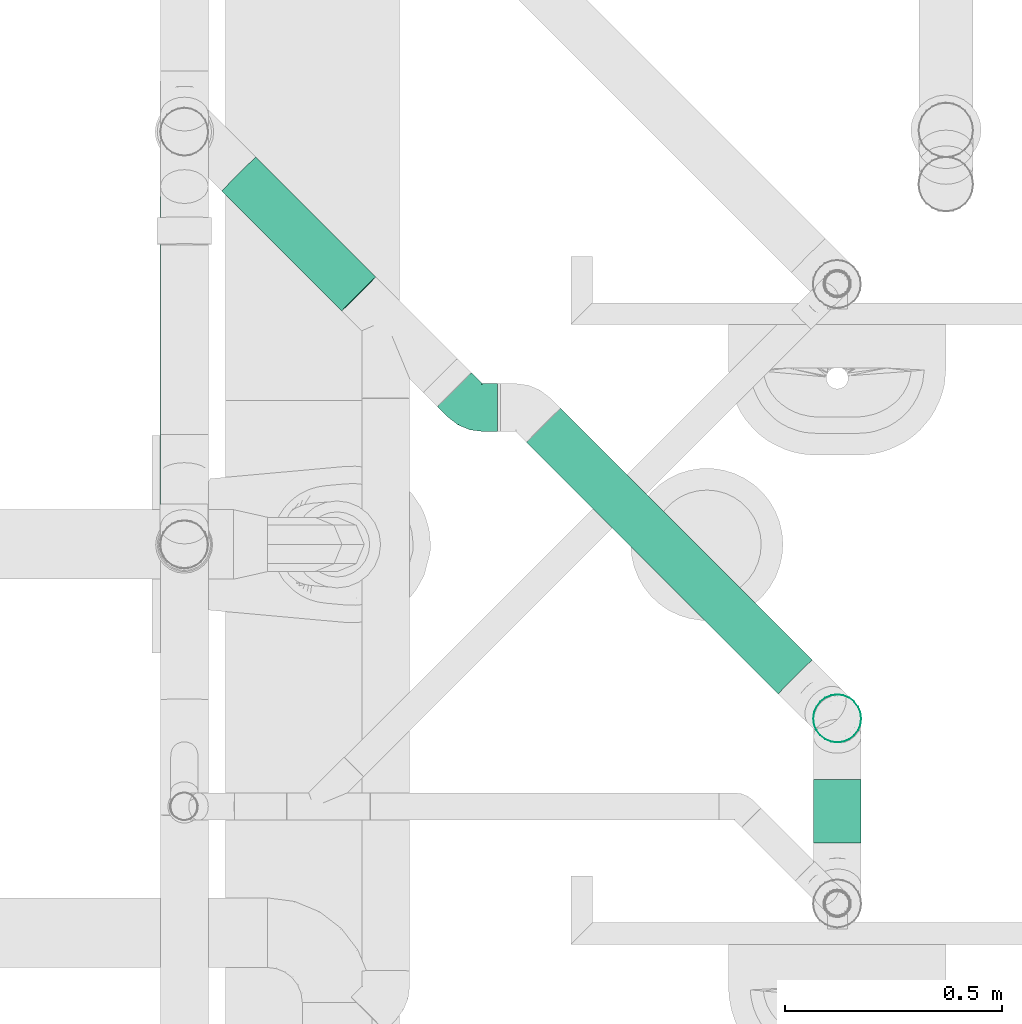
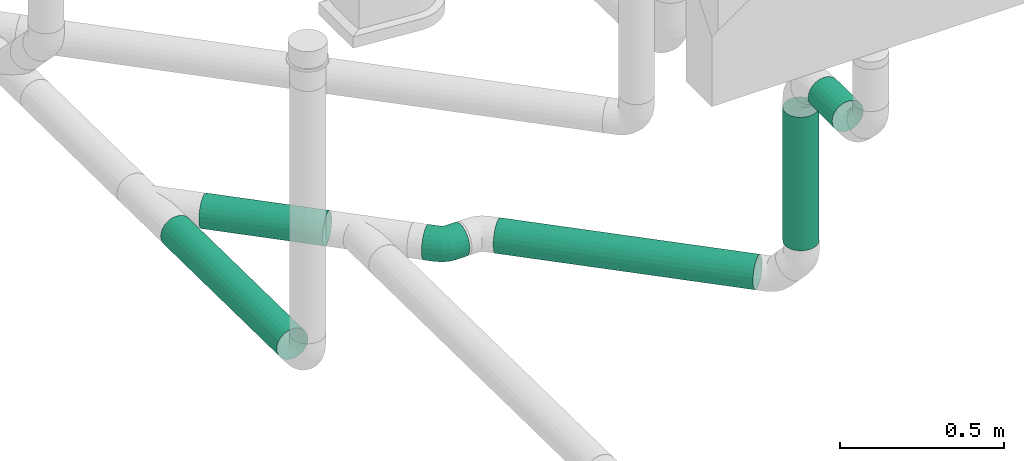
# One storey, part 301 of 374: 5 flow segments, 1 flow fitting.
"""IFC2X3 building model written with IfcOpenShell, lengths in metres."""

import ifcopenshell
import ifcopenshell.guid

model = None  # the IFC model being written
_history = None  # IfcOwnerHistory: only IFC2X3 demands one
_inside = {}  # id of a spatial element -> (the spatial element, [elements in it])
_under = {}  # id of a project, library or spatial element -> (it, [spatial elements below it])
_declared = {}  # id of a project -> (the project, [libraries it declares])
_typed = {}  # id of a type object -> (the type object, [elements of that type])
_made_of = {}  # id of a material, layer set ... -> (it, [elements and type objects made of it])


def new_model(schema):
    """Start an empty IFC model of exactly this schema.

    Asked for "IFC4X3", IfcOpenShell would pick the latest addendum, in which some entities
    have other attributes; the version numbers below select the first issue.
    IFC2X3 requires an IfcOwnerHistory on every rooted entity: one is made here for all.
    """
    global model, _history
    if schema == "IFC4X3":
        model = ifcopenshell.file(schema_version=(4, 3, 0, 0))
    else:
        model = ifcopenshell.file(schema=schema)
    _inside.clear()
    _under.clear()
    _declared.clear()
    _typed.clear()
    _made_of.clear()
    _history = None
    if model.schema == "IFC2X3":
        org = make("IfcOrganization", Name="unknown")
        user = make(
            "IfcPersonAndOrganization",
            ThePerson=make("IfcPerson", FamilyName="unknown"),
            TheOrganization=org,
        )
        app = make(
            "IfcApplication",
            ApplicationDeveloper=org,
            Version="unknown",
            ApplicationFullName="unknown",
            ApplicationIdentifier="unknown",
        )
        _history = make(
            "IfcOwnerHistory",
            OwningUser=user,
            OwningApplication=app,
            ChangeAction="ADDED",
            CreationDate=0,
        )
    return model


def make(cls, **values):
    """One entity of the class cls with the attributes given. An attribute that is None is left unset."""
    return model.create_entity(
        cls, **{name: value for name, value in values.items() if value is not None}
    )


def rooted(cls, **values):
    """An entity with a GlobalId (a new one), such as an element, a storey or a relation."""
    return make(cls, GlobalId=ifcopenshell.guid.new(), OwnerHistory=_history, **values)


def si_unit(unit_type, name, prefix=None):
    """IfcSIUnit, for example si_unit("LENGTHUNIT", "METRE", prefix="MILLI")."""
    return make("IfcSIUnit", UnitType=unit_type, Prefix=prefix, Name=name)


def assignment(units):
    """IfcUnitAssignment: the units of a project."""
    return None if units is None else make("IfcUnitAssignment", Units=units)


def point(xyz):
    """IfcCartesianPoint."""
    return None if xyz is None else make("IfcCartesianPoint", Coordinates=xyz)


def direction(xyz):
    """IfcDirection."""
    return None if xyz is None else make("IfcDirection", DirectionRatios=xyz)


def frame(location, z_axis=None, x_axis=None):
    """IfcAxis2Placement3D, a coordinate frame: its origin and axes. An axis left out is left unset."""
    return make(
        "IfcAxis2Placement3D",
        Location=point(location),
        Axis=direction(z_axis),
        RefDirection=direction(x_axis),
    )


def origin():
    """The frame at (0, 0, 0) with its axes left unset."""
    return frame((0.0, 0.0, 0.0))


def place(relative_to, where):
    """IfcLocalPlacement: puts the frame where relative to a parent placement (None: the world)."""
    return make(
        "IfcLocalPlacement", PlacementRelTo=relative_to, RelativePlacement=where
    )


def context(
    kind, dimensions, precision=None, world=None, true_north=None, identifier=None
):
    """IfcGeometricRepresentationContext, for example the 3D "Model" context."""
    return make(
        "IfcGeometricRepresentationContext",
        ContextIdentifier=identifier,
        ContextType=kind,
        CoordinateSpaceDimension=dimensions,
        Precision=precision,
        WorldCoordinateSystem=world,
        TrueNorth=true_north,
    )


def subcontext(parent, identifier, kind, view, scale=None):
    """IfcGeometricRepresentationSubContext, for example "Body" below "Model"."""
    return make(
        "IfcGeometricRepresentationSubContext",
        ContextIdentifier=identifier,
        ContextType=kind,
        ParentContext=parent,
        TargetScale=scale,
        TargetView=view,
    )


def project(units=None, contexts=None):
    """IfcProject with its units and contexts."""
    return rooted(
        "IfcProject",
        Name="project",
        RepresentationContexts=contexts,
        UnitsInContext=assignment(units),
    )


def spatial(cls, under=None, at=None, **own):
    """A site, building, storey or space (cls), placed at a placement, below another one or the project."""
    s = rooted(cls, ObjectPlacement=at, **own)
    if under is not None:
        _under.setdefault(under.id(), (under, []))[1].append(s)
    return s


def faces_of(points, faces, orient=None, outer=None):
    """IfcFace entities. A face is a list of loops; a loop is a list of indices into points, from 0.

    orient and outer hold one flag for each loop. By default every Orientation is true, the
    first loop of a face is its IfcFaceOuterBound and the others are IfcFaceBound.
    """
    made = []
    for i, loops in enumerate(faces):
        bounds = []
        for j, loop in enumerate(loops):
            is_outer = j == 0 if outer is None else outer[i][j]
            bounds.append(
                make(
                    "IfcFaceOuterBound" if is_outer else "IfcFaceBound",
                    Bound=make("IfcPolyLoop", Polygon=[points[k] for k in loop]),
                    Orientation=True if orient is None else orient[i][j],
                )
            )
        made.append(make("IfcFace", Bounds=bounds))
    return made


def open_shell(faces, orient=None, outer=None):
    """The faces of one IfcOpenShell. surface_model builds it on its shared points."""
    return ("IfcOpenShell", faces, orient, outer)


def surface_model(cls, points, shells):
    """IfcFaceBasedSurfaceModel or IfcShellBasedSurfaceModel (cls): surfaces that need not close."""
    shared = [point(p) for p in points]
    made = [make(c, CfsFaces=faces_of(shared, fs, o, b)) for c, fs, o, b in shells]
    if cls == "IfcFaceBasedSurfaceModel":
        return make(cls, FbsmFaces=made)
    return make(cls, SbsmBoundary=made)


def shape(context_of_items, identifier, shape_type, items):
    """IfcShapeRepresentation: the items that make up one representation, for example the "Body"."""
    return make(
        "IfcShapeRepresentation",
        ContextOfItems=context_of_items,
        RepresentationIdentifier=identifier,
        RepresentationType=shape_type,
        Items=items,
    )


def source(mapping_origin, context_of_items, identifier, shape_type, items):
    """IfcRepresentationMap: a shape defined once, which mapped items show again and again."""
    return make(
        "IfcRepresentationMap",
        MappingOrigin=mapping_origin,
        MappedRepresentation=shape(context_of_items, identifier, shape_type, items),
    )


def transform(
    local_origin,
    x_axis=None,
    y_axis=None,
    z_axis=None,
    scale=None,
    scale2=None,
    scale3=None,
    uniform=True,
):
    """IfcCartesianTransformationOperator3D, or its non-uniform kind. x_axis, y_axis, z_axis: its Axis1, 2, 3."""
    if uniform:
        return make(
            "IfcCartesianTransformationOperator3D",
            Axis1=direction(x_axis),
            Axis2=direction(y_axis),
            LocalOrigin=point(local_origin),
            Scale=scale,
            Axis3=direction(z_axis),
        )
    return make(
        "IfcCartesianTransformationOperator3DnonUniform",
        Axis1=direction(x_axis),
        Axis2=direction(y_axis),
        LocalOrigin=point(local_origin),
        Scale=scale,
        Axis3=direction(z_axis),
        Scale2=scale2,
        Scale3=scale3,
    )


def mapped(mapping_source, mapping_target):
    """IfcMappedItem: shows the shape of a source again, moved by a transform."""
    return make(
        "IfcMappedItem", MappingSource=mapping_source, MappingTarget=mapping_target
    )


def made_of(thing, what):
    """Note that an element or type object is made of a material, layer set ...; save() writes the relation."""
    if what is not None:
        _made_of.setdefault(what.id(), (what, []))[1].append(thing)
    return thing


def element(
    cls,
    number,
    at=None,
    inside=None,
    cuts=None,
    type_object=None,
    material=None,
    context=None,
    identifier="Body",
    shape_type=None,
    held_by="IfcProductDefinitionShape",
    body=None,
    shapes=None,
    **own,
):
    """One element of the class cls, such as IfcWall. Its Tag is "e" and its number.

    at: its placement. inside: the storey or other place that contains it. cuts: it is an
    opening in that element (IfcRelVoidsElement). A single representation is given by context,
    identifier, shape_type and body (its items); several are given by shapes. held_by: the class
    of the entity that holds the representations. save() writes the other relations.
    """
    e = rooted(cls, Tag="e%d" % number, ObjectPlacement=at, **own)
    if body is not None:
        shapes = [shape(context, identifier, shape_type, body)]
    if shapes is not None:
        e.Representation = make(held_by, Representations=shapes)
    if inside is not None:
        _inside.setdefault(inside.id(), (inside, []))[1].append(e)
    if cuts is not None:
        rooted(
            "IfcRelVoidsElement", RelatingBuildingElement=cuts, RelatedOpeningElement=e
        )
    if type_object is not None:
        _typed.setdefault(type_object.id(), (type_object, []))[1].append(e)
    return made_of(e, material)


def aggregate(whole, parts):
    """IfcRelAggregates: a whole, such as a stair, and the parts it consists of."""
    return rooted("IfcRelAggregates", RelatingObject=whole, RelatedObjects=parts)


def save(model, path):
    """Write the relations noted so far, then the file.

    IfcRelAggregates (storeys below a building ...), IfcRelContainedInSpatialStructure (elements
    in a storey), IfcRelDefinesByType, IfcRelAssociatesMaterial and IfcRelDeclares: one each for
    every whole, place, type object, material and project.
    """
    for whole, parts in _under.values():
        aggregate(whole, parts)
    for where, things in _inside.values():
        rooted(
            "IfcRelContainedInSpatialStructure",
            RelatedElements=things,
            RelatingStructure=where,
        )
    for kind, things in _typed.values():
        rooted("IfcRelDefinesByType", RelatedObjects=things, RelatingType=kind)
    for what, things in _made_of.values():
        rooted("IfcRelAssociatesMaterial", RelatedObjects=things, RelatingMaterial=what)
    for by, libraries in _declared.values():
        rooted("IfcRelDeclares", RelatingContext=by, RelatedDefinitions=libraries)
    model.write(path)


model = new_model("IFC2X3")

# Units and contexts
model_context = context("Model", 3, precision=1e-05, world=origin(), true_north=direction((-0.4480736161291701, 0.8939966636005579)))
body_context = subcontext(model_context, "Body", "Model", "MODEL_VIEW")
ifc_project = project(units=[si_unit("LENGTHUNIT", "METRE"), si_unit("AREAUNIT", "SQUARE_METRE"), si_unit("VOLUMEUNIT", "CUBIC_METRE"), si_unit("PLANEANGLEUNIT", "RADIAN"), si_unit("THERMODYNAMICTEMPERATUREUNIT", "KELVIN"), si_unit("MASSUNIT", "GRAM", prefix="KILO"), si_unit("TIMEUNIT", "SECOND")], contexts=[model_context])

# Site, building, storey
site_placement = place(None, origin())
site = spatial("IfcSite", under=ifc_project, at=site_placement, Name="Site 1", CompositionType="ELEMENT")
building_placement = place(site_placement, origin())
building = spatial("IfcBuilding", under=site, at=building_placement, Name="Undefined", CompositionType="ELEMENT")
storey_placement = place(building_placement, origin())
storey = spatial("IfcBuildingStorey", under=building, at=storey_placement, Name="Rez de chauss\x8ee", CompositionType="ELEMENT", Elevation=0.0)

# Flow segments
shared_shape_1 = source(origin(), body_context, "Body", "SurfaceModel", [
    surface_model("IfcFaceBasedSurfaceModel", [(0.0, 0.014357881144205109, -3.552713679e-15), (0.0, 0.0, 0.0), (0.7072143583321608, 0.0, -1.776356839e-15), (0.7072143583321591, 0.01435788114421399, 0.0), (0.0, -0.01386864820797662, -0.0037160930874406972), (0.7072143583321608, -0.013868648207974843, -0.0037160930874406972), (0.0, -0.026302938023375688, -0.010895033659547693), (0.7072143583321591, -0.02630293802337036, -0.01089503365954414), (0.0, -0.03645549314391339, -0.021047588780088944), (0.7072143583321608, -0.036455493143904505, -0.021047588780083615), (0.0, -0.04363443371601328, -0.033481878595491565), (0.7072143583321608, -0.04363443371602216, -0.03348187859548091), (0.0, -0.04735052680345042, -0.04735052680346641), (0.7072143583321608, -0.04735052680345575, -0.0473505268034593), (0.0, -0.04735052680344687, -0.06170840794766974), (0.7072143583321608, -0.04735052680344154, -0.06170840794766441), (0.0, -0.04363443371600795, -0.07557705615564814), (0.7072143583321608, -0.04363443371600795, -0.07557705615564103), (0.0, -0.03645549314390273, -0.08801134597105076), (0.7072143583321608, -0.0364554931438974, -0.0880113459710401), (0.0, -0.026302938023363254, -0.0981639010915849), (0.7072143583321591, -0.026302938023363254, -0.09816390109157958), (0.0, -0.013868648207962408, -0.1053428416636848), (0.7072143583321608, -0.013868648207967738, -0.10534284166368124), (0.0, 1.5987211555e-14, -0.10905893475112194), (0.7072143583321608, 1.4210854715e-14, -0.10905893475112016), (0.0, 0.014357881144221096, -0.10905893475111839), (0.7072143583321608, 0.014357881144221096, -0.10905893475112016), (0.0, 0.028226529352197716, -0.10534284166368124), (0.7072143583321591, 0.028226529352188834, -0.10534284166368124), (0.0, 0.040660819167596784, -0.0981639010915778), (0.7072143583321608, 0.04066081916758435, -0.0981639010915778), (0.0, 0.05081337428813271, -0.08801134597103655), (0.7072143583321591, 0.0508133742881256, -0.08801134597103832), (0.0, 0.05799231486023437, -0.07557705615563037), (0.7072143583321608, 0.05799231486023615, -0.07557705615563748), (0.0, 0.06170840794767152, -0.06170840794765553), (0.7072143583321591, 0.06170840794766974, -0.06170840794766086), (0.0, 0.061708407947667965, -0.0473505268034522), (0.7072143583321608, 0.06170840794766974, -0.04735052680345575), (0.0, 0.05799231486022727, -0.033481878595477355), (0.7072143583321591, 0.057992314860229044, -0.03348187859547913), (0.0, 0.050813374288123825, -0.021047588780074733), (0.7072143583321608, 0.0508133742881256, -0.021047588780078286), (0.0, 0.04066081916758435, -0.010895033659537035), (0.7072143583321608, 0.04066081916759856, -0.010895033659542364), (0.0, 0.028226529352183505, -0.0037160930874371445), (0.7072143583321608, 0.028226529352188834, -0.003716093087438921)], [open_shell([[[0, 1, 2, 3]], [[1, 4, 5, 2]], [[4, 6, 7, 5]], [[6, 8, 9, 7]], [[8, 10, 11, 9]], [[10, 12, 13, 11]], [[12, 14, 15, 13]], [[14, 16, 17, 15]], [[16, 18, 19, 17]], [[18, 20, 21, 19]], [[20, 22, 23, 21]], [[22, 24, 25, 23]], [[24, 26, 27, 25]], [[26, 28, 29, 27]], [[28, 30, 31, 29]], [[30, 32, 33, 31]], [[32, 34, 35, 33]], [[34, 36, 37, 35]], [[36, 38, 39, 37]], [[38, 40, 41, 39]], [[40, 42, 43, 41]], [[42, 44, 45, 43]], [[44, 46, 47, 45]], [[46, 0, 3, 47]]])]),
])
flow_segment_1_placement = place(storey_placement, origin())
element("IfcFlowSegment", 1, at=flow_segment_1_placement, inside=storey, Name="PE-HD tuyau", ObjectType="PE-HD tuyau", context=body_context, shape_type="MappedRepresentation", body=[
    mapped(shared_shape_1, transform((57.08795651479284, 13.611101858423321, -1.2457602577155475), x_axis=(0.0, -0.9998875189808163, 0.014998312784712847), y_axis=(-0.9906148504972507, -0.002050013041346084, -0.13666753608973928), z_axis=(0.13668291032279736, -0.014857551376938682, -0.9905034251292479))),
])
shared_shape_2 = source(origin(), body_context, "Body", "SurfaceModel", [
    surface_model("IfcFaceBasedSurfaceModel", [(3.5614898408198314e-06, 0.014357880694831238, 0.0), (0.0, 0.0, 0.0), (0.38991299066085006, -7.105427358e-15, 0.0), (0.3899165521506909, 0.014357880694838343, 0.0), (-3.318780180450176e-06, -0.013868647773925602, -0.003716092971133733), (0.38990967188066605, -0.013868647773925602, -0.003716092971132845), (-6.168681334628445e-06, -0.026302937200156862, -0.01089503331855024), (0.38990682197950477, -0.026302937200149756, -0.010895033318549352), (-8.355487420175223e-06, -0.0364554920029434, -0.021047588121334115), (0.3899046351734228, -0.036455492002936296, -0.021047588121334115), (-9.730171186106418e-06, -0.043634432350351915, -0.03348187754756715), (0.3899032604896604, -0.04363443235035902, -0.03348187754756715), (-1.0199050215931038e-05, -0.04735052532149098, -0.04735052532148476), (0.3899027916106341, -0.04735052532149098, -0.04735052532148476), (-9.730171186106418e-06, -0.04735052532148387, -0.06170840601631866), (0.38990326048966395, -0.04735052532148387, -0.061708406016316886), (-8.355487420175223e-06, -0.043634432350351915, -0.07557705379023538), (0.3899046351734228, -0.04363443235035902, -0.0755770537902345), (-6.168681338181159e-06, -0.036455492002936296, -0.08801134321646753), (0.3899068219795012, -0.036455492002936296, -0.08801134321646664), (-3.3187801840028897e-06, -0.026302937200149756, -0.0981638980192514), (0.38990967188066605, -0.026302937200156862, -0.0981638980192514), (7.105427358e-15, -0.013868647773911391, -0.1053428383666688), (0.38991299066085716, -0.013868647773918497, -0.10534283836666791), (3.5614898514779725e-06, 0.0, -0.10905893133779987), (0.38991655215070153, 0.0, -0.10905893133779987), (7.1229796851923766e-06, 0.014357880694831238, -0.10905893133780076), (0.3899201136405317, 0.014357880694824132, -0.10905893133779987), (1.0441759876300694e-05, 0.028226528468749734, -0.10534283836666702), (0.3899234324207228, 0.028226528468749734, -0.10534283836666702), (1.3291661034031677e-05, 0.04066081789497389, -0.09816389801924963), (0.3899262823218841, 0.040660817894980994, -0.09816389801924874), (1.5478467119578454e-05, 0.050813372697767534, -0.08801134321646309), (0.3899284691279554, 0.05081337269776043, -0.08801134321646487), (1.685315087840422e-05, 0.05799231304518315, -0.07557705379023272), (0.38992984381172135, 0.05799231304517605, -0.07557705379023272), (1.732202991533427e-05, 0.061708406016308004, -0.06170840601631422), (0.3899303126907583, 0.061708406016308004, -0.06170840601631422), (1.685315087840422e-05, 0.061708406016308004, -0.04735052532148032), (0.38992984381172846, 0.06170840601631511, -0.04735052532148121), (1.5478467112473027e-05, 0.05799231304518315, -0.03348187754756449), (0.38992846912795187, 0.05799231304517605, -0.0334818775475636), (1.3291661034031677e-05, 0.050813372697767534, -0.02104758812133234), (0.3899262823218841, 0.050813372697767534, -0.02104758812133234), (1.0441759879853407e-05, 0.04066081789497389, -0.010895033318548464), (0.38992343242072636, 0.04066081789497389, -0.010895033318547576), (7.122979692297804e-06, 0.02822652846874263, -0.003716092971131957), (0.38992011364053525, 0.028226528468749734, -0.003716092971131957)], [open_shell([[[0, 1, 2, 3]], [[1, 4, 5, 2]], [[4, 6, 7, 5]], [[6, 8, 9, 7]], [[8, 10, 11, 9]], [[10, 12, 13, 11]], [[12, 14, 15, 13]], [[14, 16, 17, 15]], [[16, 18, 19, 17]], [[18, 20, 21, 19]], [[20, 22, 23, 21]], [[22, 24, 25, 23]], [[24, 26, 27, 25]], [[26, 28, 29, 27]], [[28, 30, 31, 29]], [[30, 32, 33, 31]], [[32, 34, 35, 33]], [[34, 36, 37, 35]], [[36, 38, 39, 37]], [[38, 40, 41, 39]], [[40, 42, 43, 41]], [[42, 44, 45, 43]], [[44, 46, 47, 45]], [[46, 0, 3, 47]]])]),
])
flow_segment_2_placement = place(storey_placement, origin())
element("IfcFlowSegment", 2, at=flow_segment_2_placement, inside=storey, Name="PE-HD tuyau", ObjectType="PE-HD tuyau", context=body_context, shape_type="MappedRepresentation", body=[
    mapped(shared_shape_2, transform((57.20954250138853, 13.673264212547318, -1.245937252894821), x_axis=(0.7070046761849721, -0.7070498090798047, 0.014998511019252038), y_axis=(-0.7003206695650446, -0.7029137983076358, -0.12435092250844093), z_axis=(0.09846495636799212, 0.07741291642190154, -0.9921249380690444))),
])

# Flow fitting
shared_shape_3 = source(origin(), body_context, "Body", "SurfaceModel", [
    surface_model("IfcFaceBasedSurfaceModel", [(0.03509999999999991, 1.776356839e-15, -1.776356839e-15), (0.03509999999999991, 0.014357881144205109, 0.0), (0.0, 0.014357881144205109, -3.552713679e-15), (0.0, 0.0, 0.0), (0.035100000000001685, 0.028226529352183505, -0.003716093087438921), (0.0, 0.028226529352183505, -0.0037160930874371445), (0.035100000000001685, 0.040660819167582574, -0.010895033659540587), (0.0, 0.04066081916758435, -0.010895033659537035), (0.035100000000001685, 0.05081337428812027, -0.021047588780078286), (0.0, 0.050813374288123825, -0.021047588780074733), (0.03510000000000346, 0.057992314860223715, -0.033481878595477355), (0.0, 0.05799231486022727, -0.033481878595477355), (0.035100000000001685, 0.061708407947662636, -0.0473505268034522), (0.0, 0.061708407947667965, -0.0473505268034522), (0.035100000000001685, 0.06170840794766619, -0.06170840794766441), (0.0, 0.06170840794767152, -0.06170840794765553), (0.035100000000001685, 0.05799231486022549, -0.07557705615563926), (0.0, 0.05799231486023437, -0.07557705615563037), (0.035100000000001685, 0.050813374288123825, -0.08801134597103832), (0.0, 0.05081337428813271, -0.08801134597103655), (0.03510000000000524, 0.040660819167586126, -0.09816390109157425), (0.0, 0.040660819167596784, -0.0981639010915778), (0.03510000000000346, 0.02822652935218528, -0.10534284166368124), (0.0, 0.028226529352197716, -0.10534284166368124), (0.035100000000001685, 0.014357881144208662, -0.10905893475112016), (0.0, 0.014357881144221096, -0.10905893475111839), (0.03510000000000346, 5.329070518e-15, -0.10905893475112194), (0.0, 1.5987211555e-14, -0.10905893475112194), (0.03510000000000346, -0.013868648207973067, -0.10534284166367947), (0.0, -0.013868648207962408, -0.1053428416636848), (0.03510000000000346, -0.026302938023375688, -0.09816390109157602), (0.0, -0.026302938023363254, -0.0981639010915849), (0.035100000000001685, -0.03645549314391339, -0.08801134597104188), (0.0, -0.03645549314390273, -0.08801134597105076), (0.035100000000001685, -0.04363443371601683, -0.07557705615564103), (0.0, -0.04363443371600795, -0.07557705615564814), (0.035100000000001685, -0.047350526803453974, -0.061708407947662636), (0.0, -0.04735052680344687, -0.06170840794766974), (0.03510000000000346, -0.04735052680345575, -0.04735052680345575), (0.0, -0.04735052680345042, -0.04735052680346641), (0.035100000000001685, -0.043634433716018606, -0.03348187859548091), (0.0, -0.04363443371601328, -0.033481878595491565), (0.035100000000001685, -0.03645549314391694, -0.021047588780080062), (0.0, -0.03645549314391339, -0.021047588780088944), (0.03509999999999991, -0.026302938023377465, -0.010895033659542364), (0.0, -0.026302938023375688, -0.010895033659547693), (0.035100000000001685, -0.01386864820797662, -0.003716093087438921), (0.0, -0.01386864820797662, -0.0037160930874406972), (-0.027981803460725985, 0.05805648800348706, -0.062189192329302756), (-0.028466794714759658, 0.057993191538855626, -0.047839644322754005), (-0.05405714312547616, 0.04734954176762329, -0.06359878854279), (-0.054994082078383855, 0.04710066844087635, -0.04927367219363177), (-0.07644944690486, 0.030317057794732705, -0.0658411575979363), (-0.07777449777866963, 0.02977297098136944, -0.05155490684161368), (-0.02655988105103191, 0.054525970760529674, -0.07603340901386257), (-0.051310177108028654, 0.04436310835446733, -0.07737137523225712), (-0.07256459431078, 0.028196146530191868, -0.07949979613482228), (-0.02429792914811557, 0.047642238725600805, -0.08842883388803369), (-0.046940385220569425, 0.0383448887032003, -0.08965285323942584), (-0.06638468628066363, 0.023554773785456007, -0.09160000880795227), (-0.0213500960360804, 0.03787440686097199, -0.09853073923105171), (-0.041245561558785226, 0.02970501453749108, -0.09960626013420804), (-0.058330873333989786, 0.0167092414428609, -0.10131718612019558), (-0.01791727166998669, 0.02588813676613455, -0.10565069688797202), (-0.03461379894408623, 0.019032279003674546, -0.10655328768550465), (-0.04895200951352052, 0.008126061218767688, -0.10798911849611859), (-0.014233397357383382, 0.012500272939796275, -0.10930349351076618), (-0.027497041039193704, 0.007054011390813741, -0.1100205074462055), (-0.03888724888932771, -0.001609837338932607, -0.11116112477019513), (-0.010549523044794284, -0.0013768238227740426, -0.10924019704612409), (-0.020380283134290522, -0.005413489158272, -0.10977163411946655), (-0.028822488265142, -0.011834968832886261, -0.11061703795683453), (-0.00711669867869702, -0.0147974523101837, -0.1054651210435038), (-0.013748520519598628, -0.017520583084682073, -0.10582362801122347), (-0.01944362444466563, -0.021852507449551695, -0.10639393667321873), (-0.0041688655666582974, -0.026847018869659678, -0.09823553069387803), (-0.008053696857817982, -0.028442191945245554, -0.09844553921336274), (-0.011389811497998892, -0.030979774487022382, -0.09877961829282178), (-0.001906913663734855, -0.036704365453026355, -0.0880441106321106), (-0.003683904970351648, -0.03743402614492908, -0.08814017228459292), (-0.005209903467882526, -0.03859476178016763, -0.08829298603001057), (-0.00048499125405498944, -0.0436977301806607, -0.07558538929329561), (-0.0009369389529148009, -0.04388330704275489, -0.07560982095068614), (-0.0013250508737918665, -0.04417852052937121, -0.07564868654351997), (-0.0004849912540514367, -0.04741382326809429, -0.04735885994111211), (-0.0009369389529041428, -0.047599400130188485, -0.047383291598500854), (-0.0013250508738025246, -0.04789461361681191, -0.047422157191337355), (-0.0019069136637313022, -0.0438833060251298, -0.0335146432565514), (-0.003683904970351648, -0.04461296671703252, -0.03361070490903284), (-0.005209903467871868, -0.04577370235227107, -0.033763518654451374), (-0.0041688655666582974, -0.03699957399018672, -0.02111921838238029), (-0.00805369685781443, -0.038594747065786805, -0.021329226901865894), (-0.011389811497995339, -0.04113232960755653, -0.021663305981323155), (-0.0071166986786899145, -0.027231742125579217, -0.01101731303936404), (-0.013748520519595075, -0.029954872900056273, -0.011375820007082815), (-0.019443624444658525, -0.034286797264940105, -0.011946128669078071), (-0.010549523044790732, -0.01524547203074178, -0.0038973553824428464), (-0.020380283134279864, -0.019282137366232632, -0.004428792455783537), (-0.02882248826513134, -0.025703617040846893, -0.0052741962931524), (-0.014233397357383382, -0.0018576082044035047, -0.00024455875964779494), (-0.027497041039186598, -0.007303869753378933, -0.0009615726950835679), (-0.03888724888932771, -0.015967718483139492, -0.002102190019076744), (-0.017917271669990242, 0.012019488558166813, -0.00030785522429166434), (-0.03461379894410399, 0.0051636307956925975, -0.0012104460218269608), (-0.04895200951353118, -0.005742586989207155, -0.0026462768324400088), (-0.021350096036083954, 0.02544011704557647, -0.0040829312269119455), (-0.04124556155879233, 0.01727072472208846, -0.005158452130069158), (-0.05833087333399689, 0.004274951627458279, -0.006869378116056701), (-0.024297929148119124, 0.03748968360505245, -0.011312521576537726), (-0.04694038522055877, 0.028192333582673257, -0.01253654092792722), (-0.06638468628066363, 0.013402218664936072, -0.014483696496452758), (-0.02655988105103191, 0.047347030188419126, -0.021503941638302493), (-0.0513101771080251, 0.03718416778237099, -0.02284190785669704), (-0.07256459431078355, 0.02101720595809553, -0.024970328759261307), (-0.027981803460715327, 0.054340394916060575, -0.03396266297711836), (-0.054057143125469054, 0.0436334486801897, -0.035372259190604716), (-0.07644944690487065, 0.02660096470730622, -0.037614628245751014), (-0.10127120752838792, 0.005712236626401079, -0.06908044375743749), (-0.10259625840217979, 0.00516814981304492, -0.05479419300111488), (-0.0973863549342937, 0.003591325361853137, -0.08273908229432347), (-0.09120644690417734, -0.001050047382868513, -0.09483929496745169), (-0.08315263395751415, -0.00789557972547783, -0.10455647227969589), (-0.07377377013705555, -0.016478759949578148, -0.11122840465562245), (-0.06370900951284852, -0.026214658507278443, -0.1144004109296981), (-0.05364424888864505, -0.036439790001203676, -0.11385632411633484), (-0.044265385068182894, -0.04645732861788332, -0.10963322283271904), (-0.0362115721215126, -0.0555845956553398, -0.10201890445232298), (-0.030031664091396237, -0.06319958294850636, -0.09153227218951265), (-0.02614681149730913, -0.06878334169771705, -0.07888797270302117), (-0.024821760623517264, -0.07195534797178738, -0.06494769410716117), (-0.026146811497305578, -0.07249943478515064, -0.050661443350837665), (-0.030031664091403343, -0.0703785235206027, -0.03700280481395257), (-0.03621157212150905, -0.06573715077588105, -0.024902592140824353), (-0.04426538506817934, -0.05889161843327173, -0.015185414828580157), (-0.0536442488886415, -0.05030843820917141, -0.008513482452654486), (-0.06370900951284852, -0.04057253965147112, -0.00534147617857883), (-0.073773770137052, -0.03034740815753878, -0.005885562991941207), (-0.08315263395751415, -0.02032986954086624, -0.010108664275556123), (-0.09120644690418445, -0.011202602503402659, -0.017722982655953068), (-0.09738635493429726, -0.0035876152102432, -0.028209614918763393), (-0.10127120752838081, 0.001996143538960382, -0.040853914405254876)], [open_shell([[[0, 1, 2, 3]], [[1, 4, 5, 2]], [[4, 6, 7, 5]], [[6, 8, 9, 7]], [[8, 10, 11, 9]], [[10, 12, 13, 11]], [[12, 14, 15, 13]], [[14, 16, 17, 15]], [[16, 18, 19, 17]], [[18, 20, 21, 19]], [[20, 22, 23, 21]], [[22, 24, 25, 23]], [[24, 26, 27, 25]], [[26, 28, 29, 27]], [[28, 30, 31, 29]], [[30, 32, 33, 31]], [[32, 34, 35, 33]], [[34, 36, 37, 35]], [[36, 38, 39, 37]], [[38, 40, 41, 39]], [[40, 42, 43, 41]], [[42, 44, 45, 43]], [[44, 46, 47, 45]], [[46, 0, 3, 47]], [[13, 15, 48, 49]], [[49, 48, 50, 51]], [[51, 50, 52, 53]], [[15, 17, 54, 48]], [[48, 54, 55, 50]], [[50, 55, 56, 52]], [[17, 19, 57, 54]], [[54, 57, 58, 55]], [[55, 58, 59, 56]], [[19, 21, 60, 57]], [[57, 60, 61, 58]], [[58, 61, 62, 59]], [[21, 23, 63, 60]], [[60, 63, 64, 61]], [[61, 64, 65, 62]], [[23, 25, 66, 63]], [[63, 66, 67, 64]], [[64, 67, 68, 65]], [[25, 27, 69, 66]], [[66, 69, 70, 67]], [[67, 70, 71, 68]], [[27, 29, 72, 69]], [[69, 72, 73, 70]], [[70, 73, 74, 71]], [[29, 31, 75, 72]], [[72, 75, 76, 73]], [[73, 76, 77, 74]], [[31, 33, 78, 75]], [[75, 78, 79, 76]], [[76, 79, 80, 77]], [[33, 35, 81, 78]], [[78, 81, 82, 79]], [[79, 82, 83, 80]], [[35, 37, 81]], [[81, 37, 82]], [[82, 37, 83]], [[37, 39, 84]], [[37, 84, 85]], [[37, 85, 86]], [[39, 41, 87, 84]], [[84, 87, 88, 85]], [[85, 88, 89, 86]], [[41, 43, 90, 87]], [[87, 90, 91, 88]], [[88, 91, 92, 89]], [[43, 45, 93, 90]], [[90, 93, 94, 91]], [[91, 94, 95, 92]], [[45, 47, 96, 93]], [[93, 96, 97, 94]], [[94, 97, 98, 95]], [[47, 3, 99, 96]], [[96, 99, 100, 97]], [[97, 100, 101, 98]], [[3, 2, 102, 99]], [[99, 102, 103, 100]], [[100, 103, 104, 101]], [[2, 5, 105, 102]], [[102, 105, 106, 103]], [[103, 106, 107, 104]], [[5, 7, 108, 105]], [[105, 108, 109, 106]], [[106, 109, 110, 107]], [[7, 9, 111, 108]], [[108, 111, 112, 109]], [[109, 112, 113, 110]], [[9, 11, 114, 111]], [[111, 114, 115, 112]], [[112, 115, 116, 113]], [[11, 13, 49, 114]], [[114, 49, 51, 115]], [[115, 51, 53, 116]], [[53, 52, 117, 118]], [[52, 56, 119, 117]], [[56, 59, 120, 119]], [[59, 62, 121, 120]], [[62, 65, 122, 121]], [[65, 68, 123, 122]], [[68, 71, 124, 123]], [[71, 74, 125, 124]], [[74, 77, 126, 125]], [[77, 80, 127, 126]], [[80, 83, 128, 127]], [[83, 37, 129, 128]], [[37, 86, 130, 129]], [[86, 89, 131, 130]], [[89, 92, 132, 131]], [[92, 95, 133, 132]], [[95, 98, 134, 133]], [[98, 101, 135, 134]], [[101, 104, 136, 135]], [[104, 107, 137, 136]], [[107, 110, 138, 137]], [[110, 113, 139, 138]], [[113, 116, 140, 139]], [[116, 53, 118, 140]]])]),
])
flow_fitting_placement = place(storey_placement, origin())
element("IfcFlowFitting", 3, at=flow_fitting_placement, inside=storey, Name="PE-HD coude 45°", ObjectType="PE-HD coude 45°", context=body_context, shape_type="MappedRepresentation", body=[
    mapped(shared_shape_3, transform((57.71936509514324, 13.144242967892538, -1.1266941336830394), x_axis=(-0.7070272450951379, 0.7070272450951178, -0.014998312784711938), y_axis=(-0.7002982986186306, -0.7029361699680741, -0.12435044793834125), z_axis=(-0.0984620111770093, -0.07741586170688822, 0.9921250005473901))),
])

# Flow segments
shared_shape_4 = source(origin(), body_context, "Body", "SurfaceModel", [
    surface_model("IfcFaceBasedSurfaceModel", [(0.8184807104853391, 0.0, 0.0), (0.8184925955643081, 0.014357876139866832, -7.105427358e-15), (1.1885078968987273e-05, 0.014357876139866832, 0.0), (0.0, 0.0, 0.0), (0.8185036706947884, 0.028226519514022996, -0.0037160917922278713), (2.2960209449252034e-05, 0.028226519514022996, -0.003716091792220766), (0.8185131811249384, 0.0406608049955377, -0.010895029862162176), (3.24706395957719e-05, 0.040660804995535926, -0.01089502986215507), (0.818520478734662, 0.050813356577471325, -0.02104758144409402), (3.976824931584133e-05, 0.05081335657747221, -0.02104758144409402), (0.8185250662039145, 0.05799229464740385, -0.03348186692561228), (4.435571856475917e-05, 0.05799229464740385, -0.03348186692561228), (0.8185266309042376, 0.06170838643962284, -0.047350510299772), (4.592041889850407e-05, 0.06170838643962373, -0.047350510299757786), (0.8185250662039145, 0.061708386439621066, -0.061708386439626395), (4.43557185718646e-05, 0.061708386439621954, -0.061708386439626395), (0.8185204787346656, 0.0579922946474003, -0.07557702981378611), (3.976824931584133e-05, 0.0579922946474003, -0.07557702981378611), (0.8185131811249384, 0.050813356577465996, -0.08801131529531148), (3.24706395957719e-05, 0.05081335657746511, -0.08801131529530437), (0.8185036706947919, 0.04066080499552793, -0.09816386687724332), (2.2960209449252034e-05, 0.04066080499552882, -0.09816386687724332), (0.8184925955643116, 0.028226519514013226, -0.10534280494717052), (1.18850789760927e-05, 0.028226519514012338, -0.10534280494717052), (0.8184807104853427, 0.014357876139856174, -0.10905889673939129), (-7.105427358e-15, 0.014357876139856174, -0.10905889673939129), (0.8184688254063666, -1.0658141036e-14, -0.10905889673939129), (-1.18850789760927e-05, -9.769962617e-15, -0.10905889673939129), (0.8184577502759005, -0.013868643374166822, -0.10534280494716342), (-2.2960209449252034e-05, -0.013868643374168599, -0.10534280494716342), (0.8184482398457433, -0.02630292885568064, -0.09816386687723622), (-3.247063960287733e-05, -0.02630292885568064, -0.09816386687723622), (0.8184409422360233, -0.03645548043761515, -0.08801131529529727), (-3.976824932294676e-05, -0.03645548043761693, -0.08801131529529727), (0.8184363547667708, -0.04363441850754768, -0.075577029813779), (-4.43557185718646e-05, -0.04363441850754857, -0.0755770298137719), (0.8184347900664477, -0.047350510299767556, -0.061708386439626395), (-4.592041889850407e-05, -0.047350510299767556, -0.061708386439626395), (0.8184363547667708, -0.04735051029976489, -0.047350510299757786), (-4.43557185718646e-05, -0.04735051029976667, -0.047350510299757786), (0.8184409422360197, -0.043634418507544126, -0.03348186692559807), (-3.976824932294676e-05, -0.043634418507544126, -0.03348186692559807), (0.8184482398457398, -0.03645548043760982, -0.021047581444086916), (-3.24706395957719e-05, -0.03645548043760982, -0.02104758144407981), (0.818457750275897, -0.02630292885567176, -0.010895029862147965), (-2.2960209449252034e-05, -0.026302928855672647, -0.010895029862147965), (0.8184688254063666, -0.013868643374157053, -0.0037160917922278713), (-1.1885078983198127e-05, -0.013868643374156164, -0.0037160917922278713)], [open_shell([[[0, 1, 2, 3]], [[1, 4, 5, 2]], [[4, 6, 7, 5]], [[6, 8, 9, 7]], [[8, 10, 11, 9]], [[10, 12, 13, 11]], [[12, 14, 15, 13]], [[14, 16, 17, 15]], [[16, 18, 19, 17]], [[18, 20, 21, 19]], [[20, 22, 23, 21]], [[22, 24, 25, 23]], [[24, 26, 27, 25]], [[26, 28, 29, 27]], [[28, 30, 31, 29]], [[30, 32, 33, 31]], [[32, 34, 35, 33]], [[34, 36, 37, 35]], [[36, 38, 39, 37]], [[38, 40, 41, 39]], [[40, 42, 43, 41]], [[42, 44, 45, 43]], [[44, 46, 47, 45]], [[46, 0, 3, 47]]])]),
])
flow_segment_3_placement = place(storey_placement, origin())
element("IfcFlowSegment", 4, at=flow_segment_3_placement, inside=storey, Name="PE-HD tuyau", ObjectType="PE-HD tuyau", context=body_context, shape_type="MappedRepresentation", body=[
    mapped(shared_shape_4, transform((58.43948369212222, 12.468811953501, -1.166661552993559), x_axis=(-0.7070250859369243, 0.7070204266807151, -0.015415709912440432), y_axis=(0.09757822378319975, 0.0759424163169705, -0.9923261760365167), z_axis=(-0.7004241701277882, -0.7031037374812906, -0.12268299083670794))),
])
shared_shape_5 = source(origin(), body_context, "Body", "SurfaceModel", [
    surface_model("IfcFaceBasedSurfaceModel", [(0.0, 0.014357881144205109, -3.552713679e-15), (0.0, 0.0, 0.0), (0.1460985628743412, 0.0, 7.105427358e-15), (0.1460985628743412, 0.014357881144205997, 7.105427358e-15), (0.0, -0.01386864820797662, -0.0037160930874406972), (0.1460985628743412, -0.01386864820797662, -0.0037160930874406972), (0.0, -0.026302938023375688, -0.010895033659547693), (0.1460985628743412, -0.0263029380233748, -0.010895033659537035), (0.0, -0.03645549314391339, -0.021047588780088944), (0.1460985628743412, -0.03645549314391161, -0.021047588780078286), (0.0, -0.04363443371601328, -0.033481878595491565), (0.1460985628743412, -0.04363443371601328, -0.03348187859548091), (0.0, -0.04735052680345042, -0.04735052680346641), (0.1460985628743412, -0.04735052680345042, -0.04735052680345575), (0.0, -0.04735052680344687, -0.06170840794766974), (0.1460985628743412, -0.04735052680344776, -0.061708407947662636), (0.0, -0.04363443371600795, -0.07557705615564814), (0.1460985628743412, -0.04363443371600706, -0.07557705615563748), (0.0, -0.03645549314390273, -0.08801134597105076), (0.1460985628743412, -0.03645549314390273, -0.0880113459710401), (0.0, -0.026302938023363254, -0.0981639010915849), (0.1460985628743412, -0.026302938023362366, -0.09816390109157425), (0.0, -0.013868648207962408, -0.1053428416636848), (0.1460985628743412, -0.01386864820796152, -0.10534284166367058), (0.0, 1.5987211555e-14, -0.10905893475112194), (0.1460985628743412, 1.5099033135e-14, -0.10905893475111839), (0.0, 0.014357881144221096, -0.10905893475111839), (0.1460985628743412, 0.014357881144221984, -0.10905893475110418), (0.0, 0.028226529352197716, -0.10534284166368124), (0.1460985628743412, 0.028226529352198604, -0.10534284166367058), (0.0, 0.040660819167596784, -0.0981639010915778), (0.1460985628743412, 0.040660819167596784, -0.09816390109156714), (0.0, 0.05081337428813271, -0.08801134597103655), (0.1460985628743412, 0.050813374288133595, -0.08801134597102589), (0.0, 0.05799231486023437, -0.07557705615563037), (0.1460985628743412, 0.05799231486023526, -0.07557705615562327), (0.0, 0.06170840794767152, -0.06170840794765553), (0.1460985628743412, 0.06170840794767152, -0.061708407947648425), (0.0, 0.061708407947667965, -0.0473505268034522), (0.1460985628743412, 0.06170840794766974, -0.04735052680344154), (0.0, 0.05799231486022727, -0.033481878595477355), (0.1460985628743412, 0.057992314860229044, -0.033481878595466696), (0.0, 0.050813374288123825, -0.021047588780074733), (0.1460985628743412, 0.05081337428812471, -0.021047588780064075), (0.0, 0.04066081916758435, -0.010895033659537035), (0.1460985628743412, 0.04066081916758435, -0.010895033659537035), (0.0, 0.028226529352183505, -0.0037160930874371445), (0.1460985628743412, 0.028226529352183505, -0.0037160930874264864)], [open_shell([[[0, 1, 2, 3]], [[1, 4, 5, 2]], [[4, 6, 7, 5]], [[6, 8, 9, 7]], [[8, 10, 11, 9]], [[10, 12, 13, 11]], [[12, 14, 15, 13]], [[14, 16, 17, 15]], [[16, 18, 19, 17]], [[18, 20, 21, 19]], [[20, 22, 23, 21]], [[22, 24, 25, 23]], [[24, 26, 27, 25]], [[26, 28, 29, 27]], [[28, 30, 31, 29]], [[30, 32, 33, 31]], [[32, 34, 35, 33]], [[34, 36, 37, 35]], [[36, 38, 39, 37]], [[38, 40, 41, 39]], [[40, 42, 43, 41]], [[42, 44, 45, 43]], [[44, 46, 47, 45]], [[46, 0, 3, 47]]])]),
])
flow_segment_4_placement = place(storey_placement, origin())
element("IfcFlowSegment", 5, at=flow_segment_4_placement, inside=storey, Name="PE-HD tuyau", ObjectType="PE-HD tuyau", context=body_context, shape_type="MappedRepresentation", body=[
    mapped(shared_shape_5, transform((58.521881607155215, 12.126450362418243, -0.37618748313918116), x_axis=(0.0, 1.0, 0.0), y_axis=(-0.13052619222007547, 0.0, -0.9914448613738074), z_axis=(-0.9914448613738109, 0.0, 0.1305261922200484))),
])
shared_shape_6 = source(origin(), body_context, "Body", "SurfaceModel", [
    surface_model("IfcFaceBasedSurfaceModel", [(0.0, 0.014357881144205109, -3.552713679e-15), (0.0, 0.0, 0.0), (0.496, 0.0, 0.0), (0.496, 0.014357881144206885, 0.0), (0.0, -0.01386864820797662, -0.0037160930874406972), (0.496, -0.013868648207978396, -0.003716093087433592), (0.0, -0.026302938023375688, -0.010895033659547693), (0.496, -0.026302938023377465, -0.010895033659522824), (0.0, -0.03645549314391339, -0.021047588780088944), (0.496, -0.03645549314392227, -0.021047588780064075), (0.0, -0.04363443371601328, -0.033481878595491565), (0.496, -0.04363443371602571, -0.03348187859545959), (0.0, -0.04735052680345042, -0.04735052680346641), (0.496, -0.04735052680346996, -0.04735052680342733), (0.0, -0.04735052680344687, -0.06170840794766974), (0.496, -0.047350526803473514, -0.061708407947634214), (0.0, -0.04363443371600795, -0.07557705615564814), (0.496, -0.043634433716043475, -0.07557705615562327), (0.0, -0.03645549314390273, -0.08801134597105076), (0.496, -0.036455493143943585, -0.08801134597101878), (0.0, -0.026302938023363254, -0.0981639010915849), (0.496, -0.02630293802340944, -0.09816390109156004), (0.0, -0.013868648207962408, -0.1053428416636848), (0.496, -0.013868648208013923, -0.10534284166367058), (0.0, 1.5987211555e-14, -0.10905893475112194), (0.496, -3.5527136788e-14, -0.10905893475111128), (0.0, 0.014357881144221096, -0.10905893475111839), (0.496, 0.014357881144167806, -0.10905893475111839), (0.0, 0.028226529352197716, -0.10534284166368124), (0.496, 0.028226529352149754, -0.10534284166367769), (0.0, 0.040660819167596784, -0.0981639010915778), (0.496, 0.04066081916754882, -0.09816390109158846), (0.0, 0.05081337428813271, -0.08801134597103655), (0.496, 0.05081337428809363, -0.08801134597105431), (0.0, 0.05799231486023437, -0.07557705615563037), (0.496, 0.05799231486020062, -0.07557705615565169), (0.0, 0.06170840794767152, -0.06170840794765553), (0.496, 0.06170840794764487, -0.06170840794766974), (0.0, 0.061708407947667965, -0.0473505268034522), (0.496, 0.061708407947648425, -0.04735052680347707), (0.0, 0.05799231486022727, -0.033481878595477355), (0.496, 0.05799231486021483, -0.03348187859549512), (0.0, 0.050813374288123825, -0.021047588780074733), (0.496, 0.05081337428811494, -0.02104758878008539), (0.0, 0.04066081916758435, -0.010895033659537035), (0.496, 0.0406608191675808, -0.010895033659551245), (0.0, 0.028226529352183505, -0.0037160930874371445), (0.496, 0.02822652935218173, -0.0037160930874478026)], [open_shell([[[0, 1, 2, 3]], [[1, 4, 5, 2]], [[4, 6, 7, 5]], [[6, 8, 9, 7]], [[8, 10, 11, 9]], [[10, 12, 13, 11]], [[12, 14, 15, 13]], [[14, 16, 17, 15]], [[16, 18, 19, 17]], [[18, 20, 21, 19]], [[20, 22, 23, 21]], [[22, 24, 25, 23]], [[24, 26, 27, 25]], [[26, 28, 29, 27]], [[28, 30, 31, 29]], [[30, 32, 33, 31]], [[32, 34, 35, 33]], [[34, 36, 37, 35]], [[36, 38, 39, 37]], [[38, 40, 41, 39]], [[40, 42, 43, 41]], [[42, 44, 45, 43]], [[44, 46, 47, 45]], [[46, 0, 3, 47]]])]),
])
flow_segment_5_placement = place(storey_placement, origin())
element("IfcFlowSegment", 6, at=flow_segment_5_placement, inside=storey, Name="PE-HD tuyau", ObjectType="PE-HD tuyau", context=body_context, shape_type="MappedRepresentation", body=[
    mapped(shared_shape_6, transform((58.62813344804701, 12.39805277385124, -0.5301614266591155), x_axis=(0.0, 0.0, -1.0), y_axis=(0.13052619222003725, 0.9914448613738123, 0.0), z_axis=(0.9914448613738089, -0.13052619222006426, 0.0))),
])

save(model, "model.ifc")
